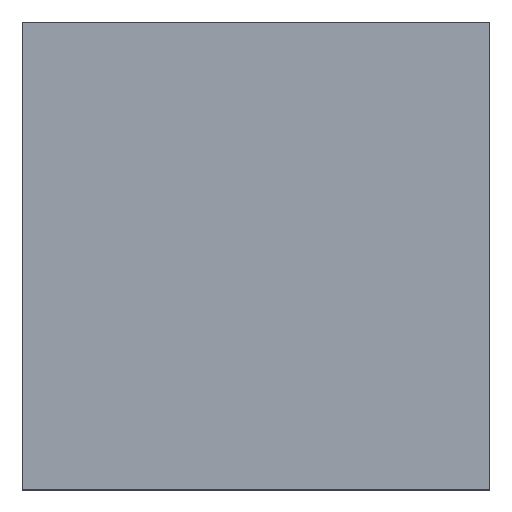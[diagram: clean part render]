
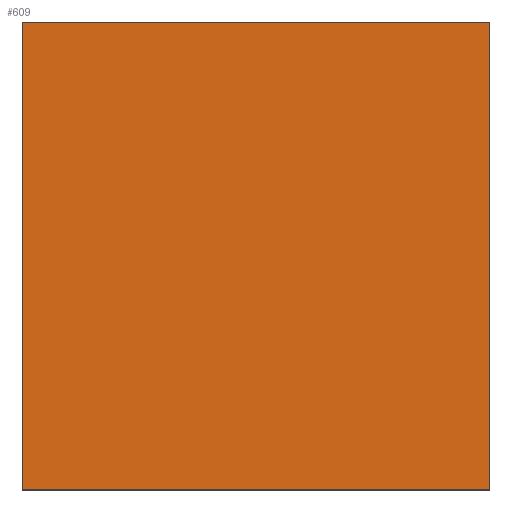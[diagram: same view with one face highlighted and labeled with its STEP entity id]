
A CAD part, top view. The second image highlights one B-rep face of the part: STEP entity #609.
In plain terms, the highlighted planar face has unit normal (0, 0, 1).
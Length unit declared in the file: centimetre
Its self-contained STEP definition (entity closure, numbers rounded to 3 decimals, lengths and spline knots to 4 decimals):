
#68 = VERTEX_POINT ( 'NONE', #466 ) ;
#108 = DIRECTION ( 'NONE',  ( 1., 0., 0. ) ) ;
#117 = PLANE ( 'NONE',  #267 ) ;
#167 = CARTESIAN_POINT ( 'NONE',  ( 0., 1000., 1000. ) ) ;
#174 = LINE ( 'NONE', #455, #447 ) ;
#179 = EDGE_CURVE ( 'NONE', #807, #499, #225, .T. ) ;
#181 = CARTESIAN_POINT ( 'NONE',  ( 0., 0., 1000. ) ) ;
#184 = DIRECTION ( 'NONE',  ( 0., 0., 1. ) ) ;
#209 = VECTOR ( 'NONE', #297, 100. ) ;
#225 = LINE ( 'NONE', #167, #822 ) ;
#228 = LINE ( 'NONE', #273, #692 ) ;
#240 = CARTESIAN_POINT ( 'NONE',  ( 1000., 1000., 1000. ) ) ;
#262 = CARTESIAN_POINT ( 'NONE',  ( 1000., 0., 1000. ) ) ;
#267 = AXIS2_PLACEMENT_3D ( 'NONE', #181, #184, #108 ) ;
#273 = CARTESIAN_POINT ( 'NONE',  ( 0., 0., 1000. ) ) ;
#283 = ORIENTED_EDGE ( 'NONE', *, *, #748, .T. ) ;
#287 = VERTEX_POINT ( 'NONE', #262 ) ;
#297 = DIRECTION ( 'NONE',  ( 0., 1., 0. ) ) ;
#301 = DIRECTION ( 'NONE',  ( -1., 0., 0. ) ) ;
#311 = DIRECTION ( 'NONE',  ( 0., -1., 0. ) ) ;
#355 = DIRECTION ( 'NONE',  ( 1., 0., 0. ) ) ;
#374 = EDGE_CURVE ( 'NONE', #68, #287, #228, .T. ) ;
#428 = EDGE_LOOP ( 'NONE', ( #283, #591, #436, #442 ) ) ;
#436 = ORIENTED_EDGE ( 'NONE', *, *, #584, .T. ) ;
#442 = ORIENTED_EDGE ( 'NONE', *, *, #179, .T. ) ;
#445 = CARTESIAN_POINT ( 'NONE',  ( 1000., 1000., 1000. ) ) ;
#447 = VECTOR ( 'NONE', #311, 100. ) ;
#455 = CARTESIAN_POINT ( 'NONE',  ( 0., 1000., 1000. ) ) ;
#466 = CARTESIAN_POINT ( 'NONE',  ( 0., 0., 1000. ) ) ;
#499 = VERTEX_POINT ( 'NONE', #788 ) ;
#584 = EDGE_CURVE ( 'NONE', #287, #807, #696, .T. ) ;
#591 = ORIENTED_EDGE ( 'NONE', *, *, #374, .T. ) ;
#609 = ADVANCED_FACE ( 'NONE', ( #818 ), #117, .T. ) ;
#692 = VECTOR ( 'NONE', #355, 100. ) ;
#696 = LINE ( 'NONE', #240, #209 ) ;
#748 = EDGE_CURVE ( 'NONE', #499, #68, #174, .T. ) ;
#788 = CARTESIAN_POINT ( 'NONE',  ( 0., 1000., 1000. ) ) ;
#807 = VERTEX_POINT ( 'NONE', #445 ) ;
#818 = FACE_OUTER_BOUND ( 'NONE', #428, .T. ) ;
#822 = VECTOR ( 'NONE', #301, 100. ) ;
